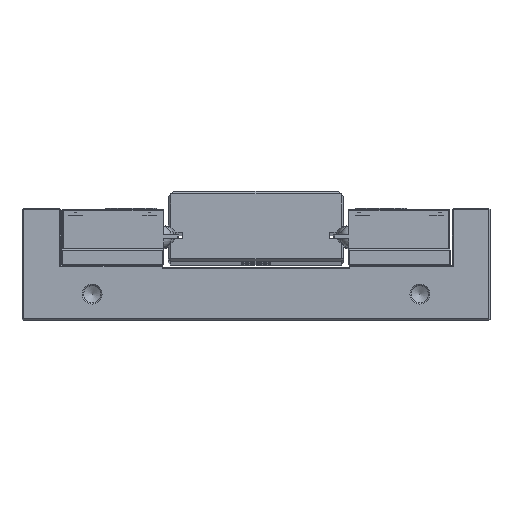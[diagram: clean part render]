
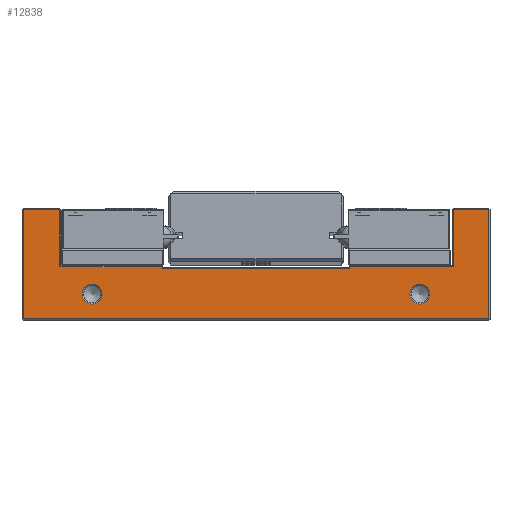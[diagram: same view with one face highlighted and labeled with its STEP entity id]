
A CAD part, top view. The second image highlights one B-rep face of the part: STEP entity #12838.
In plain terms, the highlighted planar face has unit normal (0, 0, 1).
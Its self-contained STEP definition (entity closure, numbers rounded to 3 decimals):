
#438=FACE_BOUND('',#2289,.T.);
#439=FACE_BOUND('',#2290,.T.);
#873=PLANE('',#13957);
#1493=FACE_OUTER_BOUND('',#2288,.T.);
#2288=EDGE_LOOP('',(#10547,#10548,#10549,#10550,#10551,#10552,#10553,#10554,
#10555,#10556,#10557,#10558));
#2289=EDGE_LOOP('',(#10559));
#2290=EDGE_LOOP('',(#10560));
#3316=LINE('',#21494,#4371);
#3354=LINE('',#21613,#4409);
#3355=LINE('',#21616,#4410);
#3357=LINE('',#21620,#4412);
#3358=LINE('',#21622,#4413);
#3359=LINE('',#21624,#4414);
#3360=LINE('',#21626,#4415);
#3361=LINE('',#21628,#4416);
#3362=LINE('',#21630,#4417);
#3363=LINE('',#21632,#4418);
#3364=LINE('',#21633,#4419);
#3365=LINE('',#21634,#4420);
#4371=VECTOR('',#16615,10.);
#4409=VECTOR('',#16745,10.);
#4410=VECTOR('',#16748,10.);
#4412=VECTOR('',#16752,10.);
#4413=VECTOR('',#16753,10.);
#4414=VECTOR('',#16754,10.);
#4415=VECTOR('',#16755,10.);
#4416=VECTOR('',#16756,10.);
#4417=VECTOR('',#16757,10.);
#4418=VECTOR('',#16758,10.);
#4419=VECTOR('',#16759,10.);
#4420=VECTOR('',#16760,10.);
#4975=CIRCLE('',#13958,3.824);
#4976=CIRCLE('',#13959,3.824);
#5939=VERTEX_POINT('',#21491);
#5940=VERTEX_POINT('',#21493);
#5974=VERTEX_POINT('',#21609);
#5975=VERTEX_POINT('',#21611);
#5976=VERTEX_POINT('',#21615);
#5977=VERTEX_POINT('',#21619);
#5978=VERTEX_POINT('',#21621);
#5979=VERTEX_POINT('',#21623);
#5980=VERTEX_POINT('',#21625);
#5981=VERTEX_POINT('',#21627);
#5982=VERTEX_POINT('',#21629);
#5983=VERTEX_POINT('',#21631);
#5984=VERTEX_POINT('',#21635);
#5985=VERTEX_POINT('',#21637);
#7506=EDGE_CURVE('',#5940,#5939,#3316,.T.);
#7566=EDGE_CURVE('',#5975,#5974,#3354,.T.);
#7567=EDGE_CURVE('',#5976,#5974,#3355,.T.);
#7569=EDGE_CURVE('',#5977,#5975,#3357,.T.);
#7570=EDGE_CURVE('',#5978,#5977,#3358,.T.);
#7571=EDGE_CURVE('',#5979,#5978,#3359,.T.);
#7572=EDGE_CURVE('',#5980,#5979,#3360,.T.);
#7573=EDGE_CURVE('',#5981,#5980,#3361,.T.);
#7574=EDGE_CURVE('',#5982,#5981,#3362,.T.);
#7575=EDGE_CURVE('',#5983,#5982,#3363,.T.);
#7576=EDGE_CURVE('',#5940,#5983,#3364,.T.);
#7577=EDGE_CURVE('',#5976,#5939,#3365,.T.);
#7578=EDGE_CURVE('',#5984,#5984,#4975,.T.);
#7579=EDGE_CURVE('',#5985,#5985,#4976,.T.);
#10547=ORIENTED_EDGE('',*,*,#7566,.F.);
#10548=ORIENTED_EDGE('',*,*,#7569,.F.);
#10549=ORIENTED_EDGE('',*,*,#7570,.F.);
#10550=ORIENTED_EDGE('',*,*,#7571,.F.);
#10551=ORIENTED_EDGE('',*,*,#7572,.F.);
#10552=ORIENTED_EDGE('',*,*,#7573,.F.);
#10553=ORIENTED_EDGE('',*,*,#7574,.F.);
#10554=ORIENTED_EDGE('',*,*,#7575,.F.);
#10555=ORIENTED_EDGE('',*,*,#7576,.F.);
#10556=ORIENTED_EDGE('',*,*,#7506,.T.);
#10557=ORIENTED_EDGE('',*,*,#7577,.F.);
#10558=ORIENTED_EDGE('',*,*,#7567,.T.);
#10559=ORIENTED_EDGE('',*,*,#7578,.F.);
#10560=ORIENTED_EDGE('',*,*,#7579,.F.);
#12838=ADVANCED_FACE('',(#1493,#438,#439),#873,.T.);
#13957=AXIS2_PLACEMENT_3D('',#21618,#16750,#16751);
#13958=AXIS2_PLACEMENT_3D('',#21636,#16761,#16762);
#13959=AXIS2_PLACEMENT_3D('',#21638,#16763,#16764);
#16615=DIRECTION('',(0.,-1.,0.));
#16745=DIRECTION('',(1.,0.,0.));
#16748=DIRECTION('',(0.,1.,0.));
#16750=DIRECTION('center_axis',(0.,0.,
1.));
#16751=DIRECTION('ref_axis',(1.,0.,0.));
#16752=DIRECTION('',(0.,-1.,0.));
#16753=DIRECTION('',(1.,0.,0.));
#16754=DIRECTION('',(0.,1.,0.));
#16755=DIRECTION('',(-1.,0.,0.));
#16756=DIRECTION('',(0.,-1.,0.));
#16757=DIRECTION('',(1.,0.,0.));
#16758=DIRECTION('',(0.,1.,0.));
#16759=DIRECTION('',(1.,0.,0.));
#16760=DIRECTION('',(1.,0.,0.));
#16761=DIRECTION('center_axis',(0.,0.,
1.));
#16762=DIRECTION('ref_axis',(-1.,0.,0.));
#16763=DIRECTION('center_axis',(0.,0.,
1.));
#16764=DIRECTION('ref_axis',(-1.,0.,0.));
#21491=CARTESIAN_POINT('',(27.11,-21.38,59.754));
#21493=CARTESIAN_POINT('',(27.11,-20.58,59.754));
#21494=CARTESIAN_POINT('',(27.11,-20.08,59.754));
#21609=CARTESIAN_POINT('',(-44.89,-20.58,59.754));
#21611=CARTESIAN_POINT('',(-84.39,-20.58,59.754));
#21613=CARTESIAN_POINT('',(-26.89,-20.58,59.754));
#21615=CARTESIAN_POINT('',(-44.89,-21.38,59.754));
#21616=CARTESIAN_POINT('',(-44.89,-20.88,59.754));
#21618=CARTESIAN_POINT('Origin',(-8.89,-19.58,59.754));
#21619=CARTESIAN_POINT('',(-84.39,1.42,59.754));
#21620=CARTESIAN_POINT('',(-84.39,-19.83,59.754));
#21621=CARTESIAN_POINT('',(-98.39,1.42,59.754));
#21622=CARTESIAN_POINT('',(-46.39,1.42,59.754));
#21623=CARTESIAN_POINT('',(-98.39,-40.58,59.754));
#21624=CARTESIAN_POINT('',(-98.39,-8.83,59.754));
#21625=CARTESIAN_POINT('',(80.61,-40.58,59.754));
#21626=CARTESIAN_POINT('',(-53.89,-40.58,59.754));
#21627=CARTESIAN_POINT('',(80.61,1.42,59.754));
#21628=CARTESIAN_POINT('',(80.61,-30.33,59.754));
#21629=CARTESIAN_POINT('',(67.11,1.42,59.754));
#21630=CARTESIAN_POINT('',(36.11,1.42,59.754));
#21631=CARTESIAN_POINT('',(67.11,-20.58,59.754));
#21632=CARTESIAN_POINT('',(67.11,-8.83,59.754));
#21633=CARTESIAN_POINT('',(28.86,-20.58,59.754));
#21634=CARTESIAN_POINT('',(9.11,-21.38,59.754));
#21635=CARTESIAN_POINT('',(57.933,-31.08,59.754));
#21636=CARTESIAN_POINT('Origin',(54.11,-31.08,59.754));
#21637=CARTESIAN_POINT('',(-68.067,-31.08,59.754));
#21638=CARTESIAN_POINT('Origin',(-71.89,-31.08,59.754));
